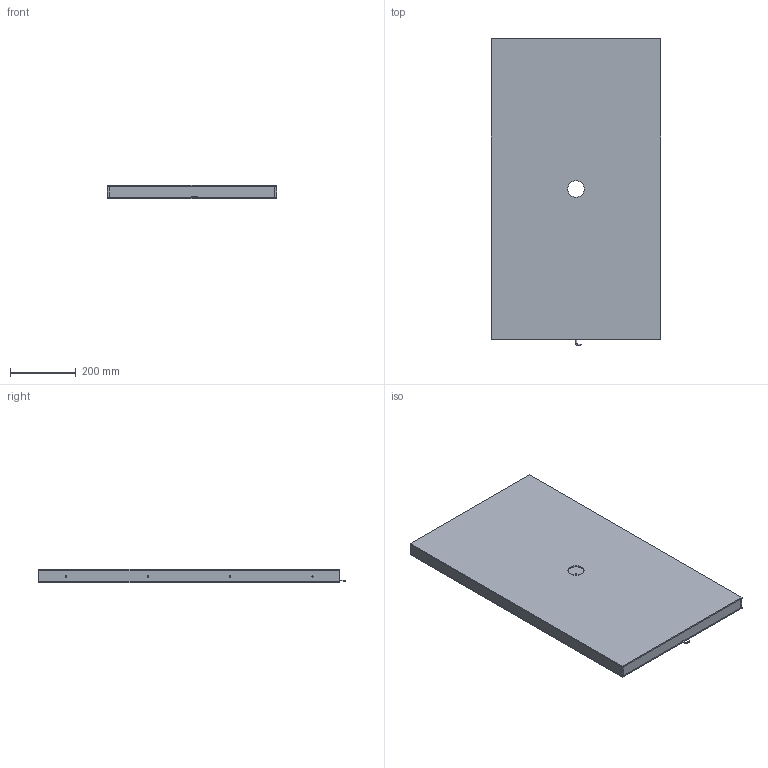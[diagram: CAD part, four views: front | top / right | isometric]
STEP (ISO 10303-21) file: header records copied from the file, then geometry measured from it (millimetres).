
FILE_DESCRIPTION (( 'STEP AP203' ), '1' );
FILE_NAME ('CRT-KFLD900500Y50-¼òÒ×3DÍ¼.STEP', '2021-11-24T03:32:47', ( 'Admin' ), ( '' ), 'SwSTEP 2.0', 'SolidWorks 2018', '' );
FILE_SCHEMA (( 'CONFIG_CONTROL_DESIGN' ));
Length unit declared in the file: millimetre
Products named in the file (1): CRT-KFLD900500Y50-潠眢3D芞
Bounding box: 514 x 931.75 x 41 mm (x, y, z)
Surface area: 2434475.9 mm2 (no closed solid volume)
Topology: 0 solids, 8 shells, 62 faces, 189 edges, 134 vertices
Faces by surface type: plane 33, cylinder 27, bspline 2
Entity records: 2245 total; most frequent: CARTESIAN_POINT 472, DIRECTION 360, ORIENTED_EDGE 295, EDGE_CURVE 189, VERTEX_POINT 134, LINE 132, VECTOR 132, AXIS2_PLACEMENT_3D 114
